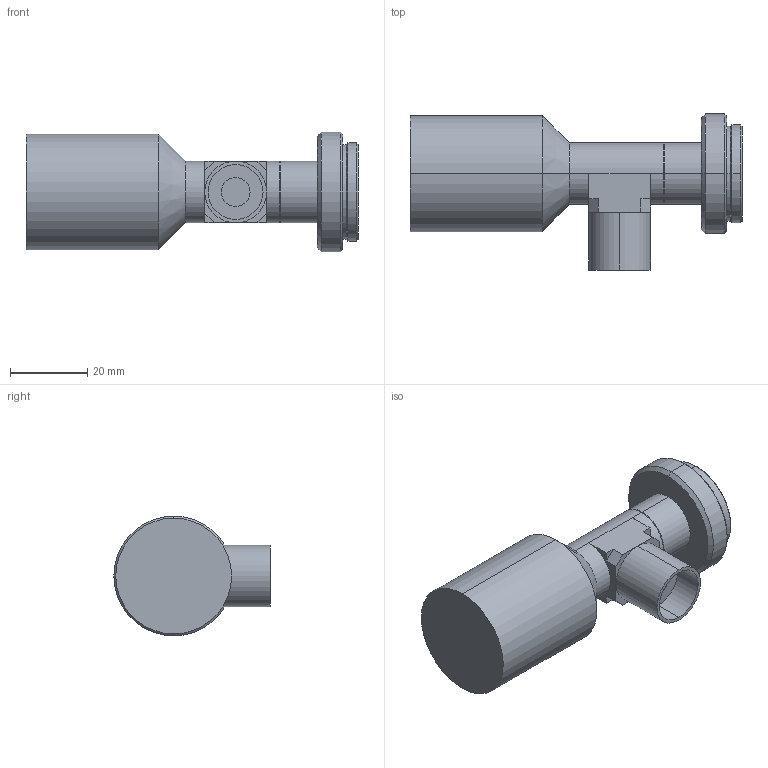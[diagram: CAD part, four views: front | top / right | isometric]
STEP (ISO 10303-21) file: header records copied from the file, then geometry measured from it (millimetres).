
FILE_DESCRIPTION (( 'STEP AP203' ), '1' );
FILE_NAME ('VS-TC05-150CO.STEP', '2015-09-04T00:14:56', ( 'miura_vst' ), ( '' ), 'SwSTEP 2.0', 'SolidWorks 2015', '' );
FILE_SCHEMA (( 'CONFIG_CONTROL_DESIGN' ));
Length unit declared in the file: millimetre
Products named in the file (1): VS-TC05-150CO
Bounding box: 86 x 40.5 x 31 mm (x, y, z)
Volume: 43353 mm3; surface area: 10111.8 mm2
Topology: 1 solids, 1 shells, 56 faces, 120 edges, 70 vertices
Faces by surface type: plane 23, cylinder 19, cone 14
Entity records: 1569 total; most frequent: DIRECTION 282, CARTESIAN_POINT 247, ORIENTED_EDGE 240, EDGE_CURVE 120, AXIS2_PLACEMENT_3D 105, VECTOR 72, LINE 72, VERTEX_POINT 70
